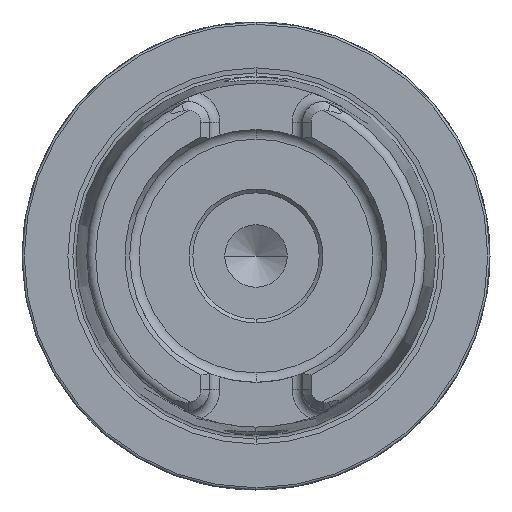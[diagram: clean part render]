
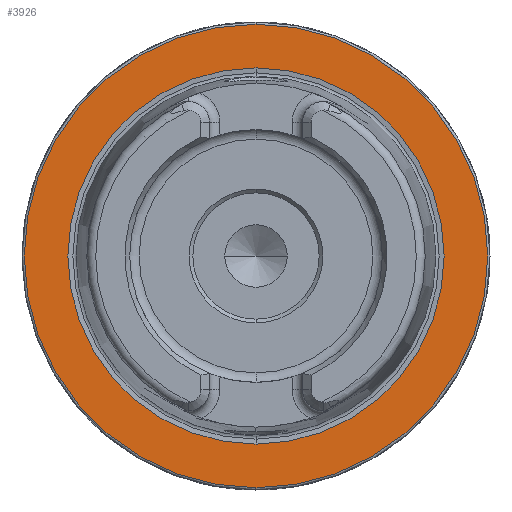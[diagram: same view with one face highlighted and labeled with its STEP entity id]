
A CAD part, left-side view. The second image highlights one B-rep face of the part: STEP entity #3926.
In plain terms, the highlighted planar face has unit normal (-1, 0, 0).
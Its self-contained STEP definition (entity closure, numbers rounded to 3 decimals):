
#574 = ORIENTED_EDGE ( 'NONE', *, *, #7146, .F. ) ;
#704 = VERTEX_POINT ( 'NONE', #8302 ) ;
#1112 = ORIENTED_EDGE ( 'NONE', *, *, #11395, .T. ) ;
#1361 = DIRECTION ( 'NONE',  ( 1., 0., 0. ) ) ;
#1660 = EDGE_LOOP ( 'NONE', ( #13399, #574 ) ) ;
#1668 = DIRECTION ( 'NONE',  ( -1., 0., 0. ) ) ;
#1695 = FACE_BOUND ( 'NONE', #1660, .T. ) ;
#1705 = VERTEX_POINT ( 'NONE', #12587 ) ;
#1800 = AXIS2_PLACEMENT_3D ( 'NONE', #4414, #10236, #8924 ) ;
#1878 = AXIS2_PLACEMENT_3D ( 'NONE', #5782, #1361, #10545 ) ;
#2177 = AXIS2_PLACEMENT_3D ( 'NONE', #14324, #1668, #7431 ) ;
#2416 = DIRECTION ( 'NONE',  ( -1., 0., 0. ) ) ;
#3160 = FACE_OUTER_BOUND ( 'NONE', #6858, .T. ) ;
#3725 = AXIS2_PLACEMENT_3D ( 'NONE', #13652, #6714, #11440 ) ;
#3926 = ADVANCED_FACE ( 'NONE', ( #1695, #3160 ), #12755, .F. ) ;
#4414 = CARTESIAN_POINT ( 'NONE',  ( 0., 0., 0. ) ) ;
#5240 = CIRCLE ( 'NONE', #2177, 25.324 ) ;
#5261 = CARTESIAN_POINT ( 'NONE',  ( 0., 0., -25.324 ) ) ;
#5782 = CARTESIAN_POINT ( 'NONE',  ( 0., 31.2, 0. ) ) ;
#6017 = VERTEX_POINT ( 'NONE', #5261 ) ;
#6714 = DIRECTION ( 'NONE',  ( -1., 0., 0. ) ) ;
#6779 = CIRCLE ( 'NONE', #12484, 31.2 ) ;
#6858 = EDGE_LOOP ( 'NONE', ( #7143, #1112 ) ) ;
#7143 = ORIENTED_EDGE ( 'NONE', *, *, #10894, .T. ) ;
#7146 = EDGE_CURVE ( 'NONE', #6017, #10317, #12843, .T. ) ;
#7431 = DIRECTION ( 'NONE',  ( 0., 0., 1. ) ) ;
#8302 = CARTESIAN_POINT ( 'NONE',  ( 0., 0., 31.2 ) ) ;
#8924 = DIRECTION ( 'NONE',  ( 0., 0., 1. ) ) ;
#9208 = CARTESIAN_POINT ( 'NONE',  ( 0., 0., 0. ) ) ;
#9833 = EDGE_CURVE ( 'NONE', #10317, #6017, #5240, .T. ) ;
#10236 = DIRECTION ( 'NONE',  ( -1., 0., 0. ) ) ;
#10304 = DIRECTION ( 'NONE',  ( 0., 0., 1. ) ) ;
#10317 = VERTEX_POINT ( 'NONE', #10989 ) ;
#10545 = DIRECTION ( 'NONE',  ( 0., 0., -1. ) ) ;
#10894 = EDGE_CURVE ( 'NONE', #704, #1705, #12569, .T. ) ;
#10989 = CARTESIAN_POINT ( 'NONE',  ( 0., 0., 25.324 ) ) ;
#11395 = EDGE_CURVE ( 'NONE', #1705, #704, #6779, .T. ) ;
#11440 = DIRECTION ( 'NONE',  ( 0., 0., 1. ) ) ;
#12484 = AXIS2_PLACEMENT_3D ( 'NONE', #9208, #2416, #10304 ) ;
#12569 = CIRCLE ( 'NONE', #1800, 31.2 ) ;
#12587 = CARTESIAN_POINT ( 'NONE',  ( 0., 0., -31.2 ) ) ;
#12755 = PLANE ( 'NONE',  #1878 ) ;
#12843 = CIRCLE ( 'NONE', #3725, 25.324 ) ;
#13399 = ORIENTED_EDGE ( 'NONE', *, *, #9833, .F. ) ;
#13652 = CARTESIAN_POINT ( 'NONE',  ( 0., 0., 0. ) ) ;
#14324 = CARTESIAN_POINT ( 'NONE',  ( 0., 0., 0. ) ) ;
